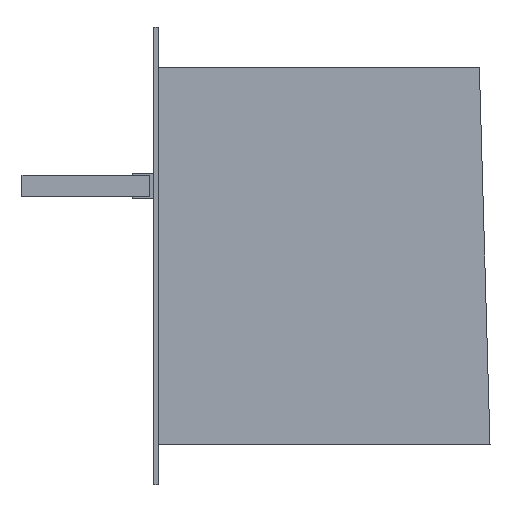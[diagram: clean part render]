
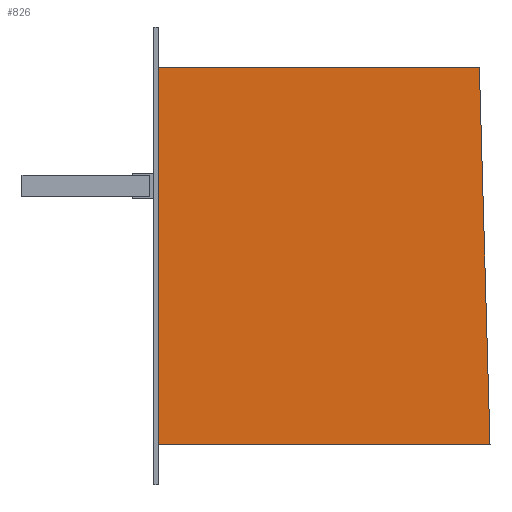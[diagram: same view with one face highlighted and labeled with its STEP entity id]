
A CAD part, left-side view. The second image highlights one B-rep face of the part: STEP entity #826.
In plain terms, the highlighted planar face has unit normal (-1, 0, 0).
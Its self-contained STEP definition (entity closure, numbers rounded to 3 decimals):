
#46 = CARTESIAN_POINT ( 'NONE',  ( -1141., -151., 88.5 ) ) ;
#59 = LINE ( 'NONE', #1720, #680 ) ;
#215 = DIRECTION ( 'NONE',  ( 0., 1., 0. ) ) ;
#326 = DIRECTION ( 'NONE',  ( 0., 0., -1. ) ) ;
#329 = VECTOR ( 'NONE', #683, 1000. ) ;
#337 = VERTEX_POINT ( 'NONE', #1903 ) ;
#480 = CARTESIAN_POINT ( 'NONE',  ( -1141., -156., -88.5 ) ) ;
#507 = DIRECTION ( 'NONE',  ( 0., -1., 0. ) ) ;
#523 = CARTESIAN_POINT ( 'NONE',  ( -1141., -151., 88.5 ) ) ;
#557 = ORIENTED_EDGE ( 'NONE', *, *, #1383, .T. ) ;
#569 = ORIENTED_EDGE ( 'NONE', *, *, #1070, .T. ) ;
#577 = FACE_OUTER_BOUND ( 'NONE', #958, .T. ) ;
#608 = CARTESIAN_POINT ( 'NONE',  ( -1141., 2., 107.5 ) ) ;
#612 = CARTESIAN_POINT ( 'NONE',  ( -1141., 0., 88.5 ) ) ;
#680 = VECTOR ( 'NONE', #215, 1000. ) ;
#681 = EDGE_CURVE ( 'NONE', #692, #858, #1258, .T. ) ;
#683 = DIRECTION ( 'NONE',  ( 0., 0.028, 1. ) ) ;
#692 = VERTEX_POINT ( 'NONE', #480 ) ;
#750 = DIRECTION ( 'NONE',  ( 0., 0., -1. ) ) ;
#769 = ORIENTED_EDGE ( 'NONE', *, *, #1321, .T. ) ;
#826 = ADVANCED_FACE ( 'NONE', ( #577 ), #888, .F. ) ;
#858 = VERTEX_POINT ( 'NONE', #46 ) ;
#888 = PLANE ( 'NONE',  #1157 ) ;
#917 = ORIENTED_EDGE ( 'NONE', *, *, #681, .T. ) ;
#958 = EDGE_LOOP ( 'NONE', ( #557, #917, #569, #769 ) ) ;
#1047 = DIRECTION ( 'NONE',  ( 1., 0., 0. ) ) ;
#1070 = EDGE_CURVE ( 'NONE', #858, #337, #59, .T. ) ;
#1100 = CARTESIAN_POINT ( 'NONE',  ( -1141., 0., -88.5 ) ) ;
#1157 = AXIS2_PLACEMENT_3D ( 'NONE', #608, #1047, #750 ) ;
#1258 = LINE ( 'NONE', #523, #329 ) ;
#1321 = EDGE_CURVE ( 'NONE', #337, #1892, #1687, .T. ) ;
#1383 = EDGE_CURVE ( 'NONE', #1892, #692, #1437, .T. ) ;
#1437 = LINE ( 'NONE', #1727, #1471 ) ;
#1471 = VECTOR ( 'NONE', #507, 1000. ) ;
#1687 = LINE ( 'NONE', #612, #1851 ) ;
#1720 = CARTESIAN_POINT ( 'NONE',  ( -1141., 0., 88.5 ) ) ;
#1727 = CARTESIAN_POINT ( 'NONE',  ( -1141., 0., -88.5 ) ) ;
#1851 = VECTOR ( 'NONE', #326, 1000. ) ;
#1892 = VERTEX_POINT ( 'NONE', #1100 ) ;
#1903 = CARTESIAN_POINT ( 'NONE',  ( -1141., 0., 88.5 ) ) ;
